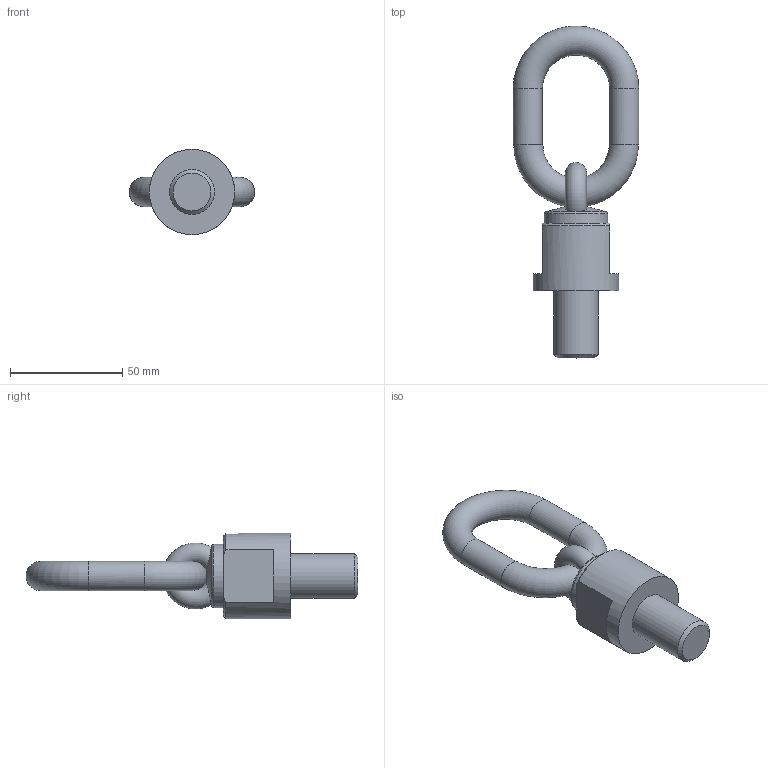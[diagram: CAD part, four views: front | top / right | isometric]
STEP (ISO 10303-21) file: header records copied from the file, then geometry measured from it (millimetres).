
FILE_DESCRIPTION( ( 'STEP AP203' ), '1' );
FILE_NAME( 'p:/temp/worker_18/temp/app_46_0201906261454151490662610e898ce_000000_00_00_000000/format_2/C800X0172030.stp', '2019-06-26T12:54:16', ( '' ), ( '' ), ' ', 'PARTsolutions', ' ' );
FILE_SCHEMA( ( 'CONFIG_CONTROL_DESIGN' ) );
Length unit declared in the file: millimetre
Products named in the file (1): _C800X0172030
Bounding box: 56 x 148 x 38 mm (x, y, z)
Volume: 71621.9 mm3; surface area: 16179.6 mm2
Topology: 1 solids, 1 shells, 27 faces, 65 edges, 40 vertices
Faces by surface type: plane 13, torus 5, cylinder 5, cone 4
Full cylindrical faces by diameter (mm): 13 x2, 20 x1, 28.2 x1, 38 x1
Entity records: 1072 total; most frequent: CARTESIAN_POINT 491, DIRECTION 114, ORIENTED_EDGE 94, AXIS2_PLACEMENT_3D 53, EDGE_CURVE 47, EDGE_LOOP 40, FACE_OUTER_BOUND 36, VERTEX_POINT 34
